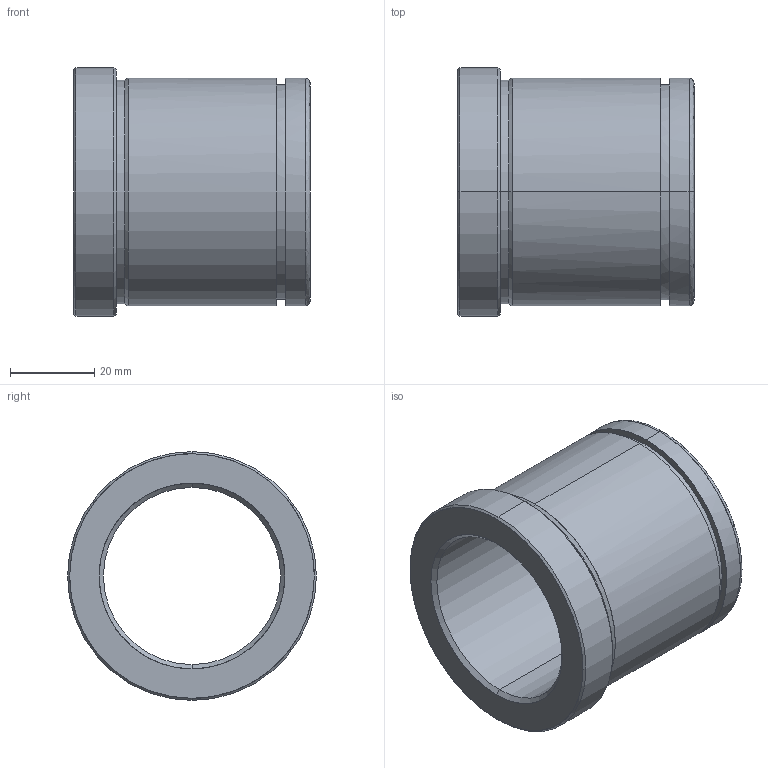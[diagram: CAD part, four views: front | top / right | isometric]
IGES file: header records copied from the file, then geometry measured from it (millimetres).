
Start section: START RECORD GO HERE.
Global section: file name: 553-42X56.igs; native system: DASSAULT SYSTEMES CATIA V5 R20 - www.3ds.com; preprocessor: CATIA Version 5 Release 20 ; author: Utente; organization: NB04-ASUS; date: 20210608.195556; units: millimetre
Bounding box: 56 x 59 x 59 mm (x, y, z)
Surface area: 19904.8 mm2 (no closed solid volume)
Topology: 0 solids, 0 shells, 29 faces, 184 edges, 184 vertices
Faces by surface type: revolution 24, plane 5
